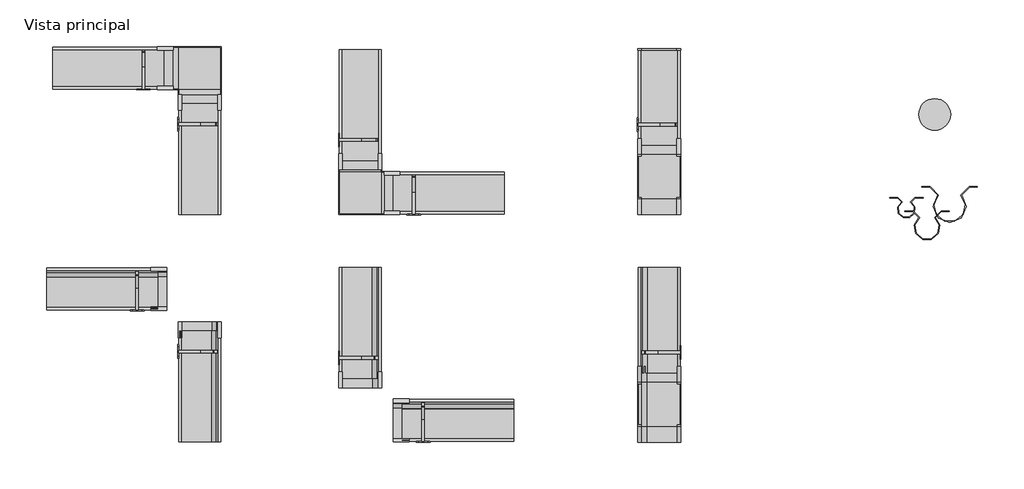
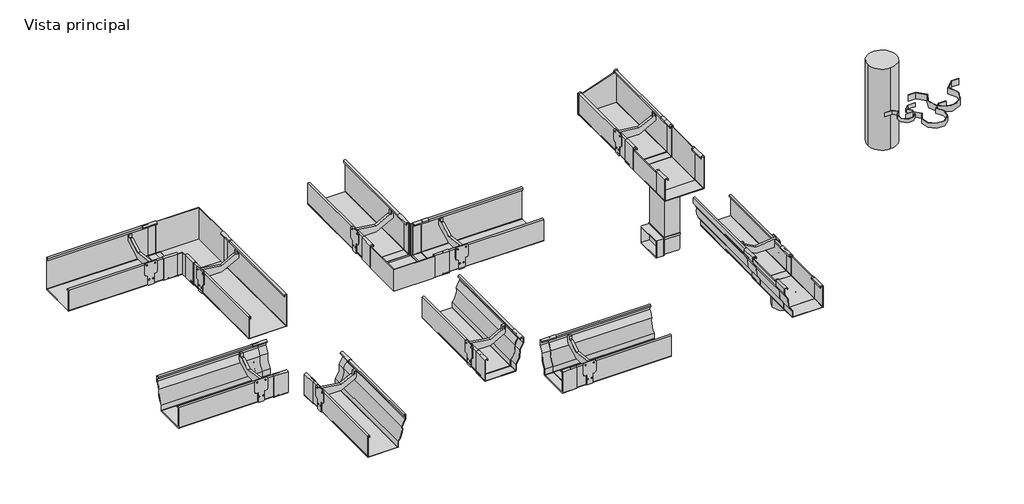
# One storey, incomplete: 42 pipe fittings, 1 pipe segment.
"""IFC4 building model written with IfcOpenShell, lengths in millimetres."""

from ifc_helpers import new_model, si_unit, point, frame, frame_2d, origin, place, context, project, spatial, circle_curve, trimmed, segment, composite_curve, outline, extrude, transform, mapped, element, save
from components import pipe_fitting_100mm_b6b6eb0b, pipe_fitting_50mm_7205c302, pipe_fitting_70mm_8c4ce1f1, var_56acee68, var_15d4b43d, var_9e434950, var_69792a31, var_188b1472, var_f527e958, var_eb0013ed, var_93b2cf93, var_51f41bf2, var_6b6f87d7, var_2d040be0, var_97ccc338, var_0e961320, var_36aa1468, var_6a521551

model = new_model("IFC4")

# Units and contexts
model_context = context("Model", 3, world=origin())
ifc_project = project(units=[si_unit("LENGTHUNIT", "METRE", prefix="MILLI")], contexts=[model_context])

# Site, building, storey
site = spatial("IfcSite", under=ifc_project)
building = spatial("IfcBuilding", under=site)
storey = spatial("IfcBuildingStorey", under=building, Name="Vista principal", Elevation=0.0)

# Pipe fittings
placement = place(None, origin())
pipe_fitting_100mm_shape = pipe_fitting_100mm_b6b6eb0b(model_context)
element("IfcPipeFitting", 1, ObjectType="AmancoWavin_Unionesdetubería_CanalesyBajantes_GazaBajanteRedondo : 100mm", at=placement, inside=storey, context=model_context, shape_type="MappedRepresentation", body=[
    mapped(pipe_fitting_100mm_shape, transform((5059.4395457, 1353.8818658, 0.0), x_axis=(1.0, 0.0, 0.0), y_axis=(0.0, 1.0, 0.0), z_axis=(0.0, 0.0, 1.0))),
])
pipe_fitting_50mm_shape = pipe_fitting_50mm_7205c302(model_context)
element("IfcPipeFitting", 2, ObjectType="AmancoWavin_Unionesdetubería_CanalesyBajantes_GazaBajanteRedondo : 50mm", at=placement, inside=storey, context=model_context, shape_type="MappedRepresentation", body=[
    mapped(pipe_fitting_50mm_shape, transform((4903.4871912, 1342.1742581, 0.0), x_axis=(1.0, 0.0, 0.0), y_axis=(0.0, 1.0, 0.0), z_axis=(0.0, 0.0, 1.0))),
])
pipe_fitting_70mm_shape = pipe_fitting_70mm_8c4ce1f1(model_context)
element("IfcPipeFitting", 3, ObjectType="AmancoWavin_Unionesdetubería_CanalesyBajantes_GazaBajanteRedondo : 70mm", at=placement, inside=storey, context=model_context, shape_type="MappedRepresentation", body=[
    mapped(pipe_fitting_70mm_shape, transform((4978.0218756, 1277.5775316, 0.0), x_axis=(1.0, 0.0, 0.0), y_axis=(0.0, 1.0, 0.0), z_axis=(0.0, 0.0, 1.0))),
])
var_shape = var_56acee68(model_context)
element("IfcPipeFitting", 4, ObjectType="AmancoWavin_Unionesdetubería_CanalesyBajantesZ_NoUsarSoporteInternoCanoa : Var.", at=placement, inside=storey, context=model_context, shape_type="MappedRepresentation", body=[
    mapped(var_shape, transform((3937.1762965, 1647.3820176, 0.0), x_axis=(1.0, 0.0, 0.0), y_axis=(0.0, 1.0, 0.0), z_axis=(0.0, 0.0, 1.0))),
])
var_2_shape = var_15d4b43d(model_context)
element("IfcPipeFitting", 5, ObjectType="AmancoWavin_Unionesdetubería_CanalesyBajantesZ_NoUsarTapaAltoCaudal : Var.", at=placement, inside=storey, context=model_context, shape_type="MappedRepresentation", body=[
    mapped(var_2_shape, transform((4012.7762965, 1915.8820176, 0.0), x_axis=(1.0, 0.0, 0.0), y_axis=(0.0, 1.0, 0.0), z_axis=(0.0, 0.0, 1.0))),
])
var_3_shape = var_9e434950(model_context)
element("IfcPipeFitting", 6, ObjectType="AmancoWavin_Unionesdetubería_CanalesyBajantesZ_NoUsarUniónAltoCaudal(Nested) : Var.", at=placement, inside=storey, context=model_context, shape_type="MappedRepresentation", body=[
    mapped(var_3_shape, transform((2262.2654855, 1851.8251541, 0.0), x_axis=(0.0, 1.0, 0.0), y_axis=(-1.0, 0.0, 0.0), z_axis=(0.0, 0.0, 1.0))),
])
element("IfcPipeFitting", 7, ObjectType="AmancoWavin_Unionesdetubería_CanalesyBajantesZ_NoUsarUniónAltoCaudal(Nested) : Var.", at=placement, inside=storey, context=model_context, shape_type="MappedRepresentation", body=[
    mapped(var_3_shape, transform((2357.9365268, 1699.2051541, 0.0), x_axis=(1.0, 0.0, 0.0), y_axis=(0.0, 1.0, 0.0), z_axis=(0.0, 0.0, 1.0))),
])
element("IfcPipeFitting", 8, ObjectType="AmancoWavin_Unionesdetubería_CanalesyBajantesZ_NoUsarUniónAltoCaudal(Nested) : Var.", at=placement, inside=storey, context=model_context, shape_type="MappedRepresentation", body=[
    mapped(var_3_shape, transform((3078.7929223, 1400.6820176, 0.0), x_axis=(0.0, 1.0, 0.0), y_axis=(-1.0, 0.0, 0.0), z_axis=(0.0, 0.0, 1.0))),
])
element("IfcPipeFitting", 9, ObjectType="AmancoWavin_Unionesdetubería_CanalesyBajantesZ_NoUsarUniónAltoCaudal(Nested) : Var.", at=placement, inside=storey, context=model_context, shape_type="MappedRepresentation", body=[
    mapped(var_3_shape, transform((2937.2392868, 1485.5820176, 0.0), x_axis=(1.0, 0.0, 0.0), y_axis=(0.0, 1.0, 0.0), z_axis=(0.0, 0.0, 1.0))),
])
var_4_shape = var_69792a31(model_context)
element("IfcPipeFitting", 10, ObjectType="AmancoWavin_Unionesdetubería_CanalesyBajantesZ_NoUsarEsquineroExternoAltoCaudal : Var.", at=placement, inside=storey, context=model_context, shape_type="MappedRepresentation", body=[
    mapped(var_4_shape, transform((2249.1828913, 1851.8251541, 0.0), x_axis=(0.0, -1.0, 0.0), y_axis=(1.0, 0.0, 0.0), z_axis=(0.0, 0.0, 1.0))),
])
element("IfcPipeFitting", 11, ObjectType="AmancoWavin_Unionesdetubería_CanalesyBajantesZ_NoUsarSoporteInternoCanoa(Nested) : Var.", at=placement, inside=storey, context=model_context, shape_type="MappedRepresentation", body=[
    mapped(var_shape, transform((2155.4654855, 1776.2251541, 0.0), x_axis=(0.0, 1.0, 0.0), y_axis=(-1.0, 0.0, 0.0), z_axis=(0.0, 0.0, 1.0))),
])
element("IfcPipeFitting", 12, ObjectType="AmancoWavin_Unionesdetubería_CanalesyBajantesZ_NoUsarSoporteInternoCanoa(Nested) : Var.", at=placement, inside=storey, context=model_context, shape_type="MappedRepresentation", body=[
    mapped(var_shape, transform((2282.3365268, 1649.2051541, 0.0), x_axis=(1.0, 0.0, 0.0), y_axis=(0.0, 1.0, 0.0), z_axis=(0.0, 0.0, 1.0))),
])
element("IfcPipeFitting", 13, ObjectType="AmancoWavin_Unionesdetubería_CanalesyBajantesZ_NoUsarSoporteInternoCanoa(Nested) : Var.", at=placement, inside=storey, context=model_context, shape_type="MappedRepresentation", body=[
    mapped(var_shape, transform((3128.7929223, 1325.0820176, 0.0), x_axis=(0.0, 1.0, 0.0), y_axis=(-1.0, 0.0, 0.0), z_axis=(0.0, 0.0, 1.0))),
])
element("IfcPipeFitting", 14, ObjectType="AmancoWavin_Unionesdetubería_CanalesyBajantesZ_NoUsarSoporteInternoCanoa(Nested) : Var.", at=placement, inside=storey, context=model_context, shape_type="MappedRepresentation", body=[
    mapped(var_shape, transform((2861.6392868, 1592.3820176, 0.0), x_axis=(1.0, 0.0, 0.0), y_axis=(0.0, 1.0, 0.0), z_axis=(0.0, 0.0, 1.0))),
])
var_5_shape = var_188b1472(model_context)
element("IfcPipeFitting", 15, ObjectType="AmancoWavin_Unionesdetubería_CanalesyBajantesZ_NoUsarEsquineroInternoAltoCaudal : Var.", at=placement, inside=storey, context=model_context, shape_type="MappedRepresentation", body=[
    mapped(var_5_shape, transform((3045.9929223, 1400.6820176, 0.0), x_axis=(0.0, 1.0, 0.0), y_axis=(-1.0, 0.0, 0.0), z_axis=(0.0, 0.0, 1.0))),
])
element("IfcPipeFitting", 16, ObjectType="AmancoWavin_Unionesdetubería_CanalesyBajantesZ_NoUsarUniónAltoCaudal : Var.", at=placement, inside=storey, context=model_context, shape_type="MappedRepresentation", body=[
    mapped(var_3_shape, transform((4012.7762965, 1540.5820176, 0.0), x_axis=(1.0, 0.0, 0.0), y_axis=(0.0, 1.0, 0.0), z_axis=(0.0, 0.0, 1.0))),
])
element("IfcPipeFitting", 17, ObjectType="AmancoWavin_Unionesdetubería_CanalesyBajantesZ_NoUsarUniónAltoCaudal : Var.", at=placement, inside=storey, context=model_context, shape_type="MappedRepresentation", body=[
    mapped(var_3_shape, transform((4012.7762965, 1322.7820176, 0.0), x_axis=(1.0, 0.0, 0.0), y_axis=(0.0, 1.0, 0.0), z_axis=(0.0, 0.0, 1.0))),
])
var_6_shape = var_f527e958(model_context)
element("IfcPipeFitting", 18, ObjectType="AmancoWavin_Unionesdetubería_CanalesyBajantesZ_NoUsarBoquillaRectangularAltoCaudal : Var.", at=placement, inside=storey, context=model_context, shape_type="MappedRepresentation", body=[
    mapped(var_6_shape, transform((4012.7762965, 1355.5820176, 0.0), x_axis=(1.0, 0.0, 0.0), y_axis=(0.0, 1.0, 0.0), z_axis=(0.0, 0.0, 1.0))),
])
var_7_shape = var_eb0013ed(model_context)
element("IfcPipeFitting", 19, ObjectType="AmancoWavin_Unionesdetubería_CanalesyBajantesZ_NoUsarUniónColonial(Nested) : Var.", at=placement, inside=storey, context=model_context, shape_type="MappedRepresentation", body=[
    mapped(var_7_shape, transform((2357.9264681, 879.3648043, 0.0), x_axis=(1.0, 0.0, 0.0), y_axis=(0.0, 1.0, 0.0), z_axis=(0.0, 0.0, 1.0))),
])
element("IfcPipeFitting", 20, ObjectType="AmancoWavin_Unionesdetubería_CanalesyBajantesZ_NoUsarUniónColonial(Nested) : Var.", at=placement, inside=storey, context=model_context, shape_type="MappedRepresentation", body=[
    mapped(var_7_shape, transform((2239.3817964, 1054.7111474, 0.0), x_axis=(0.0, 1.0, 0.0), y_axis=(-1.0, 0.0, 0.0), z_axis=(0.0, 0.0, 1.0))),
])
element("IfcPipeFitting", 21, ObjectType="AmancoWavin_Unionesdetubería_CanalesyBajantesZ_NoUsarUniónColonial(Nested) : Var.", at=placement, inside=storey, context=model_context, shape_type="MappedRepresentation", body=[
    mapped(var_7_shape, transform((3112.580947, 580.9182421, 0.0), x_axis=(0.0, 1.0, 0.0), y_axis=(-1.0, 0.0, 0.0), z_axis=(0.0, 0.0, 1.0))),
])
element("IfcPipeFitting", 22, ObjectType="AmancoWavin_Unionesdetubería_CanalesyBajantesZ_NoUsarUniónColonial(Nested) : Var.", at=placement, inside=storey, context=model_context, shape_type="MappedRepresentation", body=[
    mapped(var_7_shape, transform((2937.2292281, 699.4645852, 0.0), x_axis=(1.0, 0.0, 0.0), y_axis=(0.0, 1.0, 0.0), z_axis=(0.0, 0.0, 1.0))),
])
var_8_shape = var_93b2cf93(model_context)
element("IfcPipeFitting", 23, ObjectType="AmancoWavin_Unionesdetubería_CanalesyBajantesZ_NoUsarSoporteInternoCanoa(Nested) : Var.", at=placement, inside=storey, context=model_context, shape_type="MappedRepresentation", body=[
    mapped(var_8_shape, transform((2132.5817964, 979.1111474, 0.0), x_axis=(0.0, 1.0, 0.0), y_axis=(-1.0, 0.0, 0.0), z_axis=(0.0, 0.0, 1.0))),
])
element("IfcPipeFitting", 24, ObjectType="AmancoWavin_Unionesdetubería_CanalesyBajantesZ_NoUsarSoporteInternoCanoa(Nested) : Var.", at=placement, inside=storey, context=model_context, shape_type="MappedRepresentation", body=[
    mapped(var_8_shape, transform((2282.3318439, 829.3648043, 0.0), x_axis=(1.0, 0.0, 0.0), y_axis=(0.0, 1.0, 0.0), z_axis=(0.0, 0.0, 1.0))),
])
element("IfcPipeFitting", 25, ObjectType="AmancoWavin_Unionesdetubería_CanalesyBajantesZ_NoUsarSoporteInternoCanoa(Nested) : Var.", at=placement, inside=storey, context=model_context, shape_type="MappedRepresentation", body=[
    mapped(var_8_shape, transform((2861.6292281, 806.2645852, 0.0), x_axis=(1.0, 0.0, 0.0), y_axis=(0.0, 1.0, 0.0), z_axis=(0.0, 0.0, 1.0))),
])
element("IfcPipeFitting", 26, ObjectType="AmancoWavin_Unionesdetubería_CanalesyBajantesZ_NoUsarSoporteInternoCanoa(Nested) : Var.", at=placement, inside=storey, context=model_context, shape_type="MappedRepresentation", body=[
    mapped(var_8_shape, transform((3162.580947, 505.3182421, 0.0), x_axis=(0.0, 1.0, 0.0), y_axis=(-1.0, 0.0, 0.0), z_axis=(0.0, 0.0, 1.0))),
])
var_9_shape = var_51f41bf2(model_context)
element("IfcPipeFitting", 27, ObjectType="AmancoWavin_Unionesdetubería_CanalesyBajantesZ_NoUsarCanoaColonial : Var.", at=placement, inside=storey, context=model_context, shape_type="MappedRepresentation", body=[
    mapped(var_9_shape, transform((2357.9264681, 503.3611474, 0.0), x_axis=(1.0, 0.0, 0.0), y_axis=(0.0, 1.0, 0.0), z_axis=(0.0, 0.0, 1.0))),
])
element("IfcPipeFitting", 28, ObjectType="AmancoWavin_Unionesdetubería_CanalesyBajantesZ_NoUsarCanoaColonial : Var.", at=placement, inside=storey, context=model_context, shape_type="MappedRepresentation", body=[
    mapped(var_9_shape, transform((2206.5817964, 1054.7111474, 0.0), x_axis=(0.0, 1.0, 0.0), y_axis=(-1.0, 0.0, 0.0), z_axis=(0.0, 0.0, 1.0))),
])
element("IfcPipeFitting", 29, ObjectType="AmancoWavin_Unionesdetubería_CanalesyBajantesZ_NoUsarCanoaColonial : Var.", at=placement, inside=storey, context=model_context, shape_type="MappedRepresentation", body=[
    mapped(var_9_shape, transform((2937.2292281, 732.2645852, 0.0), x_axis=(1.0, 0.0, 0.0), y_axis=(0.0, 1.0, 0.0), z_axis=(0.0, 0.0, 1.0))),
])
element("IfcPipeFitting", 30, ObjectType="AmancoWavin_Unionesdetubería_CanalesyBajantesZ_NoUsarCanoaColonial : Var.", at=placement, inside=storey, context=model_context, shape_type="MappedRepresentation", body=[
    mapped(var_9_shape, transform((3488.580947, 580.9182421, 0.0), x_axis=(0.0, 1.0, 0.0), y_axis=(-1.0, 0.0, 0.0), z_axis=(0.0, 0.0, 1.0))),
])
element("IfcPipeFitting", 31, ObjectType="AmancoWavin_Unionesdetubería_CanalesyBajantesZ_NoUsarUniónColonial : Var.", at=placement, inside=storey, context=model_context, shape_type="MappedRepresentation", body=[
    mapped(var_7_shape, transform((4012.7762965, 558.4645852, 0.0), x_axis=(-1.0, 0.0, 0.0), y_axis=(0.0, -1.0, 0.0), z_axis=(0.0, 0.0, 1.0))),
])
element("IfcPipeFitting", 32, ObjectType="AmancoWavin_Unionesdetubería_CanalesyBajantesZ_NoUsarUniónColonial : Var.", at=placement, inside=storey, context=model_context, shape_type="MappedRepresentation", body=[
    mapped(var_7_shape, transform((4012.7762965, 776.2645852, 0.0), x_axis=(-1.0, 0.0, 0.0), y_axis=(0.0, -1.0, 0.0), z_axis=(0.0, 0.0, 1.0))),
])
element("IfcPipeFitting", 33, ObjectType="AmancoWavin_Unionesdetubería_CanalesyBajantesZ_NoUsarSoporteInternoCanoa : Var.", at=placement, inside=storey, context=model_context, shape_type="MappedRepresentation", body=[
    mapped(var_8_shape, transform((4088.3762965, 826.2645852, 0.0), x_axis=(-1.0, 0.0, 0.0), y_axis=(0.0, -1.0, 0.0), z_axis=(0.0, 0.0, 1.0))),
])
var_10_shape = var_6b6f87d7(model_context)
element("IfcPipeFitting", 34, ObjectType="AmancoWavin_Unionesdetubería_CanalesyBajantesZ_NoUsarCanoaColonial : Var.", at=placement, inside=storey, context=model_context, shape_type="MappedRepresentation", body=[
    mapped(var_10_shape, transform((4012.7762965, 1132.2645852, 0.0), x_axis=(-1.0, 0.0, 0.0), y_axis=(0.0, -1.0, 0.0), z_axis=(0.0, 0.0, 1.0))),
])
var_11_shape = var_2d040be0(model_context)
element("IfcPipeFitting", 35, ObjectType="AmancoWavin_Unionesdetubería_CanalesyBajantesZ_NoUsarBoquillaRedondaColonial : Var.", at=placement, inside=storey, context=model_context, shape_type="MappedRepresentation", body=[
    mapped(var_11_shape, transform((4012.7762965, 743.4645852, 0.0), x_axis=(-1.0, 0.0, 0.0), y_axis=(0.0, -1.0, 0.0), z_axis=(0.0, 0.0, 1.0))),
])
var_12_shape = var_97ccc338(model_context)
element("IfcPipeFitting", 36, ObjectType="AmancoWavin_Unionesdetubería_CanalesyBajantes_CodoRectangular : Var.", at=placement, inside=storey, context=model_context, shape_type="MappedRepresentation", body=[
    mapped(var_12_shape, transform((4012.7762965, 1460.0820176, -260.46), x_axis=(1.0, 0.0, 0.0), y_axis=(0.0, 1.0, 0.0), z_axis=(0.0, 0.0, 1.0))),
])
var_13_shape = var_0e961320(model_context)
element("IfcPipeFitting", 37, ObjectType="AmancoWavin_Unionesdetubería_CanalesyBajantesZ_NoUsarBajanteRectangular : Var.", at=placement, inside=storey, context=model_context, shape_type="MappedRepresentation", body=[
    mapped(var_13_shape, transform((4012.7762965, 1460.0820176, -22.0), x_axis=(0.0, 1.0, 0.0), y_axis=(-1.0, 0.0, 0.0), z_axis=(0.0, 0.0, 1.0))),
])
var_14_shape = var_36aa1468(model_context)
element("IfcPipeFitting", 38, ObjectType="AmancoWavin_Unionesdetubería_CanalesyBajantesZ_NoUsarCanoaAltoCaudal : Var.", at=placement, inside=storey, context=model_context, shape_type="MappedRepresentation", body=[
    mapped(var_14_shape, transform((4012.7762965, 1573.3820176, 0.0), x_axis=(1.0, 0.0, 0.0), y_axis=(0.0, 1.0, 0.0), z_axis=(0.0, 0.0, 1.0))),
])
var_15_shape = var_6a521551(model_context)
element("IfcPipeFitting", 39, ObjectType="AmancoWavin_Unionesdetubería_CanalesyBajantesZ_NoUsarCanoaAltoCaudal : Var.", at=placement, inside=storey, context=model_context, shape_type="MappedRepresentation", body=[
    mapped(var_15_shape, transform((2229.4654855, 1851.8251541, 0.0), x_axis=(0.0, 1.0, 0.0), y_axis=(-1.0, 0.0, 0.0), z_axis=(0.0, 0.0, 1.0))),
])
element("IfcPipeFitting", 40, ObjectType="AmancoWavin_Unionesdetubería_CanalesyBajantesZ_NoUsarCanoaAltoCaudal : Var.", at=placement, inside=storey, context=model_context, shape_type="MappedRepresentation", body=[
    mapped(var_15_shape, transform((2357.9264681, 1323.2051541, 0.0), x_axis=(1.0, 0.0, 0.0), y_axis=(0.0, 1.0, 0.0), z_axis=(0.0, 0.0, 1.0))),
])
element("IfcPipeFitting", 41, ObjectType="AmancoWavin_Unionesdetubería_CanalesyBajantesZ_NoUsarCanoaAltoCaudal : Var.", at=placement, inside=storey, context=model_context, shape_type="MappedRepresentation", body=[
    mapped(var_15_shape, transform((2937.2292281, 1518.3820176, 0.0), x_axis=(1.0, 0.0, 0.0), y_axis=(0.0, 1.0, 0.0), z_axis=(0.0, 0.0, 1.0))),
])
element("IfcPipeFitting", 42, ObjectType="AmancoWavin_Unionesdetubería_CanalesyBajantesZ_NoUsarCanoaAltoCaudal : Var.", at=placement, inside=storey, context=model_context, shape_type="MappedRepresentation", body=[
    mapped(var_15_shape, transform((3454.7929223, 1400.6820176, 0.0), x_axis=(0.0, 1.0, 0.0), y_axis=(-1.0, 0.0, 0.0), z_axis=(0.0, 0.0, 1.0))),
])

# Pipe segment
element("IfcPipeSegment", 43, ObjectType="AmancoWavin_Tuberías_BajanteRedondoPVC", at=placement, inside=storey, context=model_context, shape_type="SweptSolid", body=[
    extrude(outline(composite_curve([segment(trimmed(circle_curve(frame_2d((5005.356611, 1684.2376851)), 57.15), [point((5062.506611, 1684.2376851))], [point((5005.356611, 1627.0876851))], False, "CARTESIAN"), True, "CONTINUOUS"), segment(trimmed(circle_curve(frame_2d((5005.356611, 1684.2376851)), 57.15), [point((5005.356611, 1627.0876851))], [point((4948.206611, 1684.2376851))], False, "CARTESIAN"), True, "CONTINUOUS"), segment(trimmed(circle_curve(frame_2d((5005.356611, 1684.2376851)), 57.15), [point((4948.206611, 1684.2376851))], [point((5005.356611, 1741.3876851))], False, "CARTESIAN"), True, "CONTINUOUS"), segment(trimmed(circle_curve(frame_2d((5005.356611, 1684.2376851)), 57.15), [point((5005.356611, 1741.3876851))], [point((5062.506611, 1684.2376851))], False, "CARTESIAN"), True, "CONTINUOUS")], self_intersect=False)), frame((0.0, 0.0, -340.0), z_axis=(0.0, 0.0, 1.0), x_axis=(1.0, 0.0, 0.0)), (0.0, 0.0, 1.0), 340.0),
])

save(model, "model.ifc")
